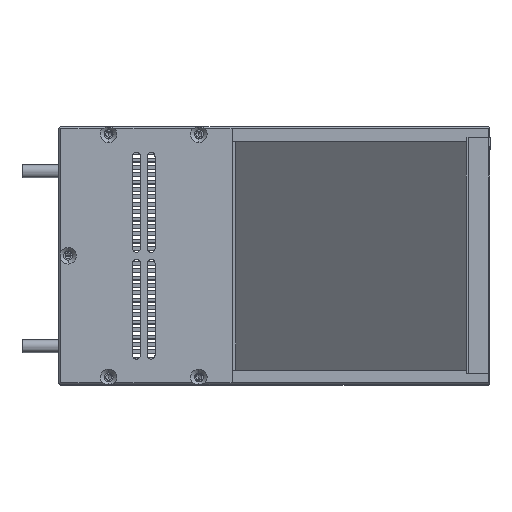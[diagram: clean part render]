
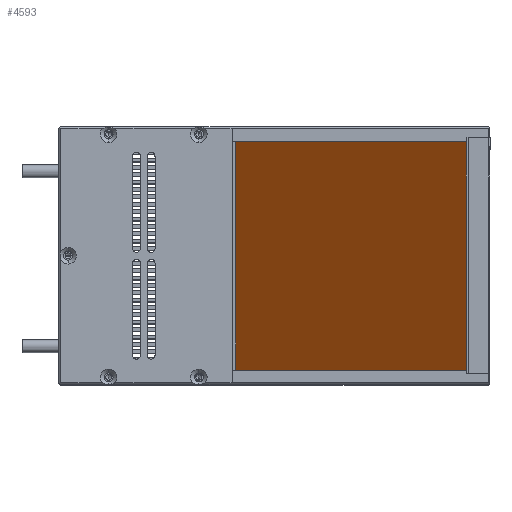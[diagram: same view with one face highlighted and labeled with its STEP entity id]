
A CAD part, top view. The second image highlights one B-rep face of the part: STEP entity #4593.
In plain terms, the highlighted planar face has unit normal (-0.707, 0, 0.707).
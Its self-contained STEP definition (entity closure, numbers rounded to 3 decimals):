
#967 = VERTEX_POINT ( 'NONE', #5163 ) ;
#1226 = EDGE_CURVE ( 'NONE', #17542, #967, #25028, .T. ) ;
#1952 = DIRECTION ( 'NONE',  ( 0.707, 0., 0.707 ) ) ;
#2642 = VERTEX_POINT ( 'NONE', #4577 ) ;
#2885 = CARTESIAN_POINT ( 'NONE',  ( 36.776, 39.123, 181.914 ) ) ;
#3539 = LINE ( 'NONE', #25991, #18158 ) ;
#4577 = CARTESIAN_POINT ( 'NONE',  ( 36.776, -24.877, 181.914 ) ) ;
#4593 = ADVANCED_FACE ( 'NONE', ( #10697 ), #28754, .F. ) ;
#5112 = VECTOR ( 'NONE', #1952, 1000. ) ;
#5163 = CARTESIAN_POINT ( 'NONE',  ( -25.803, 39.123, 119.335 ) ) ;
#5973 = ORIENTED_EDGE ( 'NONE', *, *, #20071, .F. ) ;
#6030 = CARTESIAN_POINT ( 'NONE',  ( -25.803, -24.877, 119.335 ) ) ;
#6333 = LINE ( 'NONE', #2885, #5112 ) ;
#6826 = CARTESIAN_POINT ( 'NONE',  ( 5.487, 7.123, 150.624 ) ) ;
#8426 = DIRECTION ( 'NONE',  ( -0.707, 0., -0.707 ) ) ;
#8566 = LINE ( 'NONE', #25639, #13191 ) ;
#8625 = CARTESIAN_POINT ( 'NONE',  ( -25.803, -24.877, 119.335 ) ) ;
#10697 = FACE_OUTER_BOUND ( 'NONE', #18710, .T. ) ;
#10792 = EDGE_CURVE ( 'NONE', #967, #16221, #6333, .T. ) ;
#13191 = VECTOR ( 'NONE', #18797, 1000. ) ;
#13797 = DIRECTION ( 'NONE',  ( 0., 1., 0. ) ) ;
#14246 = ORIENTED_EDGE ( 'NONE', *, *, #29758, .F. ) ;
#14288 = ORIENTED_EDGE ( 'NONE', *, *, #10792, .F. ) ;
#14866 = ORIENTED_EDGE ( 'NONE', *, *, #1226, .F. ) ;
#16221 = VERTEX_POINT ( 'NONE', #17335 ) ;
#17335 = CARTESIAN_POINT ( 'NONE',  ( 36.776, 39.123, 181.914 ) ) ;
#17542 = VERTEX_POINT ( 'NONE', #8625 ) ;
#18158 = VECTOR ( 'NONE', #8426, 1000. ) ;
#18466 = VECTOR ( 'NONE', #13797, 1000. ) ;
#18710 = EDGE_LOOP ( 'NONE', ( #14288, #14866, #14246, #5973 ) ) ;
#18797 = DIRECTION ( 'NONE',  ( 0., -1., 0. ) ) ;
#20071 = EDGE_CURVE ( 'NONE', #16221, #2642, #8566, .T. ) ;
#22461 = DIRECTION ( 'NONE',  ( 0.707, 0., -0.707 ) ) ;
#23420 = DIRECTION ( 'NONE',  ( 0., 1., 0. ) ) ;
#23578 = AXIS2_PLACEMENT_3D ( 'NONE', #6826, #22461, #23420 ) ;
#25028 = LINE ( 'NONE', #6030, #18466 ) ;
#25639 = CARTESIAN_POINT ( 'NONE',  ( 36.776, -24.877, 181.914 ) ) ;
#25991 = CARTESIAN_POINT ( 'NONE',  ( 36.776, -24.877, 181.914 ) ) ;
#28754 = PLANE ( 'NONE',  #23578 ) ;
#29758 = EDGE_CURVE ( 'NONE', #2642, #17542, #3539, .T. ) ;
